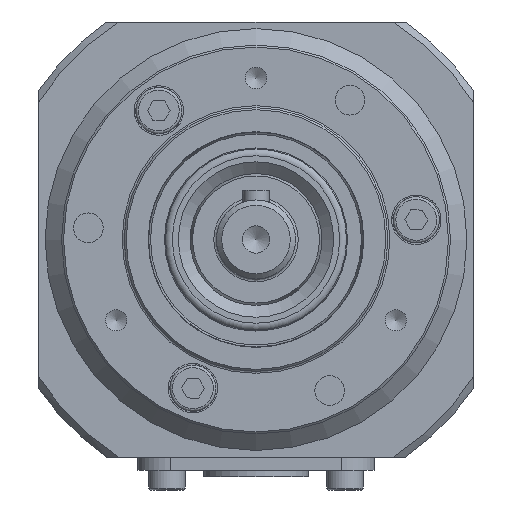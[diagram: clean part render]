
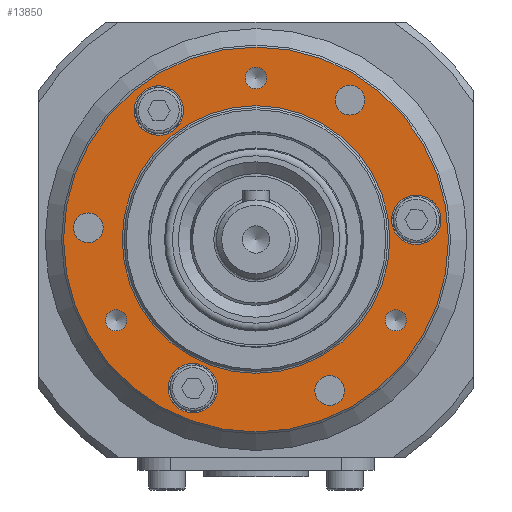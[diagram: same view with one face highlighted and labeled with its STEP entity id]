
A CAD part, left-side view. The second image highlights one B-rep face of the part: STEP entity #13850.
In plain terms, the highlighted planar face has unit normal (-1, 0, 0).
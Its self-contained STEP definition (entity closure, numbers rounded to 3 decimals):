
#4019=PLANE('',#14668);
#4205=FACE_BOUND('',#5918,.T.);
#4206=FACE_BOUND('',#5919,.T.);
#4207=FACE_BOUND('',#5920,.T.);
#4208=FACE_BOUND('',#5921,.T.);
#4209=FACE_BOUND('',#5922,.T.);
#4210=FACE_BOUND('',#5923,.T.);
#4211=FACE_BOUND('',#5924,.T.);
#4212=FACE_BOUND('',#5925,.T.);
#4213=FACE_BOUND('',#5926,.T.);
#4214=FACE_BOUND('',#5927,.T.);
#4974=FACE_OUTER_BOUND('',#5917,.T.);
#5917=EDGE_LOOP('',(#12825));
#5918=EDGE_LOOP('',(#12826));
#5919=EDGE_LOOP('',(#12827));
#5920=EDGE_LOOP('',(#12828));
#5921=EDGE_LOOP('',(#12829));
#5922=EDGE_LOOP('',(#12830));
#5923=EDGE_LOOP('',(#12831));
#5924=EDGE_LOOP('',(#12832));
#5925=EDGE_LOOP('',(#12833));
#5926=EDGE_LOOP('',(#12834));
#5927=EDGE_LOOP('',(#12835));
#6079=CIRCLE('',#14136,3.75);
#6081=CIRCLE('',#14139,3.75);
#6083=CIRCLE('',#14142,3.75);
#6207=CIRCLE('',#14651,2.25);
#6210=CIRCLE('',#14657,1.621);
#6211=CIRCLE('',#14659,2.25);
#6213=CIRCLE('',#14664,1.621);
#6215=CIRCLE('',#14667,20.3);
#6216=CIRCLE('',#14669,29.2);
#6217=CIRCLE('',#14670,1.621);
#6218=CIRCLE('',#14671,2.25);
#6477=VERTEX_POINT('',#18906);
#6478=VERTEX_POINT('',#18910);
#6479=VERTEX_POINT('',#18914);
#7434=VERTEX_POINT('',#24361);
#7436=VERTEX_POINT('',#24369);
#7437=VERTEX_POINT('',#24372);
#7439=VERTEX_POINT('',#24379);
#7441=VERTEX_POINT('',#24384);
#7442=VERTEX_POINT('',#24387);
#7443=VERTEX_POINT('',#24389);
#7444=VERTEX_POINT('',#24391);
#7815=EDGE_CURVE('',#6477,#6477,#6079,.T.);
#7817=EDGE_CURVE('',#6478,#6478,#6081,.T.);
#7819=EDGE_CURVE('',#6479,#6479,#6083,.T.);
#9245=EDGE_CURVE('',#7434,#7434,#6207,.T.);
#9248=EDGE_CURVE('',#7436,#7436,#6210,.T.);
#9249=EDGE_CURVE('',#7437,#7437,#6211,.T.);
#9251=EDGE_CURVE('',#7439,#7439,#6213,.T.);
#9253=EDGE_CURVE('',#7441,#7441,#6215,.T.);
#9254=EDGE_CURVE('',#7442,#7442,#6216,.T.);
#9255=EDGE_CURVE('',#7443,#7443,#6217,.T.);
#9256=EDGE_CURVE('',#7444,#7444,#6218,.T.);
#12825=ORIENTED_EDGE('',*,*,#9254,.F.);
#12826=ORIENTED_EDGE('',*,*,#9245,.T.);
#12827=ORIENTED_EDGE('',*,*,#7819,.T.);
#12828=ORIENTED_EDGE('',*,*,#9248,.T.);
#12829=ORIENTED_EDGE('',*,*,#9249,.T.);
#12830=ORIENTED_EDGE('',*,*,#7815,.T.);
#12831=ORIENTED_EDGE('',*,*,#9251,.T.);
#12832=ORIENTED_EDGE('',*,*,#9255,.T.);
#12833=ORIENTED_EDGE('',*,*,#7817,.T.);
#12834=ORIENTED_EDGE('',*,*,#9256,.T.);
#12835=ORIENTED_EDGE('',*,*,#9253,.F.);
#13850=ADVANCED_FACE('',(#4974,#4205,#4206,#4207,#4208,#4209,#4210,#4211,
#4212,#4213,#4214),#4019,.T.);
#14136=AXIS2_PLACEMENT_3D('',#18907,#15311,#15312);
#14139=AXIS2_PLACEMENT_3D('',#18911,#15317,#15318);
#14142=AXIS2_PLACEMENT_3D('',#18915,#15323,#15324);
#14651=AXIS2_PLACEMENT_3D('',#24362,#17258,#17259);
#14657=AXIS2_PLACEMENT_3D('',#24370,#17270,#17271);
#14659=AXIS2_PLACEMENT_3D('',#24373,#17274,#17275);
#14664=AXIS2_PLACEMENT_3D('',#24380,#17284,#17285);
#14667=AXIS2_PLACEMENT_3D('',#24385,#17290,#17291);
#14668=AXIS2_PLACEMENT_3D('',#24386,#17292,#17293);
#14669=AXIS2_PLACEMENT_3D('',#24388,#17294,#17295);
#14670=AXIS2_PLACEMENT_3D('',#24390,#17296,#17297);
#14671=AXIS2_PLACEMENT_3D('',#24392,#17298,#17299);
#15311=DIRECTION('center_axis',(1.,0.,0.));
#15312=DIRECTION('ref_axis',(0.,0.5,-0.866));
#15317=DIRECTION('center_axis',(1.,0.,0.));
#15318=DIRECTION('ref_axis',(0.,-1.,0.));
#15323=DIRECTION('center_axis',(1.,0.,0.));
#15324=DIRECTION('ref_axis',(0.,0.5,0.866));
#17258=DIRECTION('center_axis',(1.,0.,0.));
#17259=DIRECTION('ref_axis',(0.,0.5,0.866));
#17270=DIRECTION('center_axis',(1.,0.,0.));
#17271=DIRECTION('ref_axis',(0.,0.5,0.866));
#17274=DIRECTION('center_axis',(1.,0.,0.));
#17275=DIRECTION('ref_axis',(0.,0.5,-0.866));
#17284=DIRECTION('center_axis',(1.,0.,0.));
#17285=DIRECTION('ref_axis',(0.,0.5,-0.866));
#17290=DIRECTION('center_axis',(-1.,0.,0.));
#17291=DIRECTION('ref_axis',(0.,0.,
-1.));
#17292=DIRECTION('center_axis',(-1.,0.,0.));
#17293=DIRECTION('ref_axis',(0.,-1.,0.));
#17294=DIRECTION('center_axis',(1.,0.,0.));
#17295=DIRECTION('ref_axis',(0.,0.,
-1.));
#17296=DIRECTION('center_axis',(1.,0.,0.));
#17297=DIRECTION('ref_axis',(0.,-1.,0.));
#17298=DIRECTION('center_axis',(1.,0.,0.));
#17299=DIRECTION('ref_axis',(0.,-1.,0.));
#18906=CARTESIAN_POINT('',(3.,-26.192,6.233));
#18907=CARTESIAN_POINT('Origin',(3.,-24.317,2.986));
#18910=CARTESIAN_POINT('',(3.,18.494,19.567));
#18911=CARTESIAN_POINT('Origin',(3.,14.744,19.567));
#18914=CARTESIAN_POINT('',(3.,7.698,-25.8));
#18915=CARTESIAN_POINT('Origin',(3.,9.573,-22.552));
#24361=CARTESIAN_POINT('',(3.,24.313,-0.17));
#24362=CARTESIAN_POINT('Origin',(3.,25.438,1.779));
#24369=CARTESIAN_POINT('',(3.,20.407,-13.654));
#24370=CARTESIAN_POINT('Origin',(3.,21.218,-12.25));
#24372=CARTESIAN_POINT('',(3.,-12.303,-20.971));
#24373=CARTESIAN_POINT('Origin',(3.,-11.178,-22.919));
#24379=CARTESIAN_POINT('',(3.,-22.028,-10.846));
#24380=CARTESIAN_POINT('Origin',(3.,-21.218,-12.25));
#24384=CARTESIAN_POINT('',(3.,0.,20.3));
#24385=CARTESIAN_POINT('Origin',(3.,0.,
0.));
#24386=CARTESIAN_POINT('Origin',(3.,0.,
24.75));
#24387=CARTESIAN_POINT('',(3.,0.,29.2));
#24388=CARTESIAN_POINT('Origin',(3.,0.,
0.));
#24389=CARTESIAN_POINT('',(3.,1.621,24.5));
#24390=CARTESIAN_POINT('Origin',(3.,0.,
24.5));
#24391=CARTESIAN_POINT('',(3.,-14.259,23.39));
#24392=CARTESIAN_POINT('Origin',(3.,-14.259,21.14));
